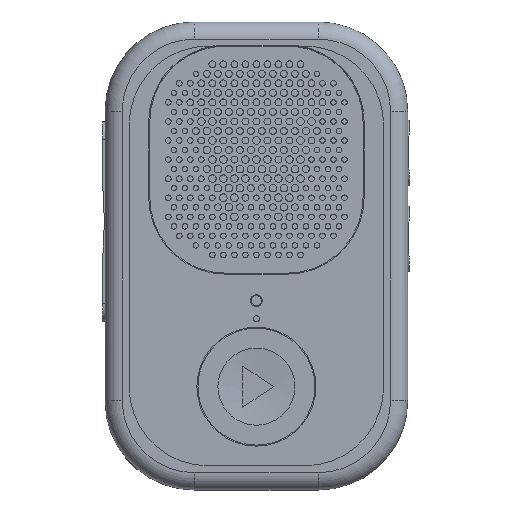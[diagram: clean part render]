
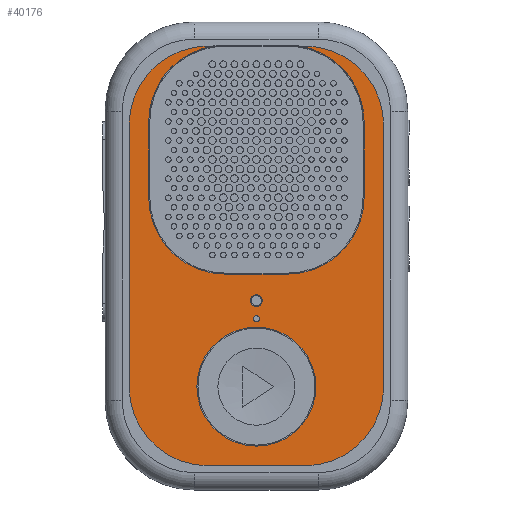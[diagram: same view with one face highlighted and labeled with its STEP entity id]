
A CAD part, top view. The second image highlights one B-rep face of the part: STEP entity #40176.
In plain terms, the highlighted planar face has unit normal (0, 0, 1).
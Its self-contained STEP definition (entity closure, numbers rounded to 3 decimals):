
#661=FACE_BOUND('',#6298,.T.);
#662=FACE_BOUND('',#6299,.T.);
#663=FACE_BOUND('',#6300,.T.);
#2376=CIRCLE('',#42797,2.3);
#2377=CIRCLE('',#42800,2.3);
#2378=CIRCLE('',#42803,2.23);
#2383=CIRCLE('',#42810,2.23);
#2385=CIRCLE('',#42814,2.3);
#2386=CIRCLE('',#42817,2.3);
#2464=CIRCLE('',#42969,2.23);
#2465=CIRCLE('',#42970,2.23);
#2466=CIRCLE('',#42971,1.73);
#2467=CIRCLE('',#42972,0.09);
#2468=CIRCLE('',#42973,0.17);
#4206=FACE_OUTER_BOUND('',#6297,.T.);
#6297=EDGE_LOOP('',(#28185,#28186,#28187,#28188,#28189,#28190,#28191,#28192,
#28193,#28194,#28195,#28196,#28197,#28198,#28199,#28200));
#6298=EDGE_LOOP('',(#28201));
#6299=EDGE_LOOP('',(#28202));
#6300=EDGE_LOOP('',(#28203));
#9231=LINE('',#59442,#13311);
#9235=LINE('',#59451,#13315);
#9244=LINE('',#59483,#13324);
#9246=LINE('',#59490,#13326);
#9249=LINE('',#59497,#13329);
#9545=LINE('',#60231,#13625);
#9546=LINE('',#60235,#13626);
#9547=LINE('',#60238,#13627);
#13311=VECTOR('',#47281,0.1);
#13315=VECTOR('',#47291,0.1);
#13324=VECTOR('',#47322,0.1);
#13326=VECTOR('',#47330,0.1);
#13329=VECTOR('',#47339,0.1);
#13625=VECTOR('',#47935,0.1);
#13626=VECTOR('',#47938,0.1);
#13627=VECTOR('',#47941,0.1);
#17416=VERTEX_POINT('',#59435);
#17417=VERTEX_POINT('',#59437);
#17418=VERTEX_POINT('',#59441);
#17419=VERTEX_POINT('',#59445);
#17420=VERTEX_POINT('',#59449);
#17421=VERTEX_POINT('',#59453);
#17430=VERTEX_POINT('',#59474);
#17431=VERTEX_POINT('',#59476);
#17432=VERTEX_POINT('',#59481);
#17433=VERTEX_POINT('',#59485);
#17434=VERTEX_POINT('',#59489);
#17435=VERTEX_POINT('',#59493);
#17723=VERTEX_POINT('',#60230);
#17724=VERTEX_POINT('',#60232);
#17725=VERTEX_POINT('',#60234);
#17726=VERTEX_POINT('',#60236);
#17727=VERTEX_POINT('',#60239);
#17728=VERTEX_POINT('',#60241);
#17729=VERTEX_POINT('',#60243);
#21418=EDGE_CURVE('',#17416,#17417,#2376,.T.);
#21419=EDGE_CURVE('',#17416,#17418,#9231,.T.);
#21421=EDGE_CURVE('',#17419,#17418,#2377,.T.);
#21424=EDGE_CURVE('',#17420,#17419,#9235,.T.);
#21425=EDGE_CURVE('',#17420,#17421,#2378,.T.);
#21436=EDGE_CURVE('',#17430,#17431,#2383,.T.);
#21440=EDGE_CURVE('',#17432,#17431,#9244,.T.);
#21442=EDGE_CURVE('',#17433,#17432,#2385,.T.);
#21443=EDGE_CURVE('',#17434,#17433,#9246,.T.);
#21445=EDGE_CURVE('',#17435,#17434,#2386,.T.);
#21447=EDGE_CURVE('',#17435,#17417,#9249,.T.);
#21821=EDGE_CURVE('',#17723,#17430,#9545,.T.);
#21822=EDGE_CURVE('',#17724,#17723,#2464,.T.);
#21823=EDGE_CURVE('',#17724,#17725,#9546,.T.);
#21824=EDGE_CURVE('',#17726,#17725,#2465,.T.);
#21825=EDGE_CURVE('',#17726,#17421,#9547,.T.);
#21826=EDGE_CURVE('',#17727,#17727,#2466,.T.);
#21827=EDGE_CURVE('',#17728,#17728,#2467,.T.);
#21828=EDGE_CURVE('',#17729,#17729,#2468,.T.);
#28185=ORIENTED_EDGE('',*,*,#21419,.F.);
#28186=ORIENTED_EDGE('',*,*,#21418,.T.);
#28187=ORIENTED_EDGE('',*,*,#21447,.F.);
#28188=ORIENTED_EDGE('',*,*,#21445,.T.);
#28189=ORIENTED_EDGE('',*,*,#21443,.T.);
#28190=ORIENTED_EDGE('',*,*,#21442,.T.);
#28191=ORIENTED_EDGE('',*,*,#21440,.T.);
#28192=ORIENTED_EDGE('',*,*,#21436,.F.);
#28193=ORIENTED_EDGE('',*,*,#21821,.F.);
#28194=ORIENTED_EDGE('',*,*,#21822,.F.);
#28195=ORIENTED_EDGE('',*,*,#21823,.T.);
#28196=ORIENTED_EDGE('',*,*,#21824,.F.);
#28197=ORIENTED_EDGE('',*,*,#21825,.T.);
#28198=ORIENTED_EDGE('',*,*,#21425,.F.);
#28199=ORIENTED_EDGE('',*,*,#21424,.T.);
#28200=ORIENTED_EDGE('',*,*,#21421,.T.);
#28201=ORIENTED_EDGE('',*,*,#21826,.T.);
#28202=ORIENTED_EDGE('',*,*,#21827,.T.);
#28203=ORIENTED_EDGE('',*,*,#21828,.F.);
#38876=PLANE('',#42968);
#40176=ADVANCED_FACE('',(#4206,#661,#662,#663),#38876,.T.);
#42797=AXIS2_PLACEMENT_3D('',#59439,#47277,#47278);
#42800=AXIS2_PLACEMENT_3D('',#59446,#47285,#47286);
#42803=AXIS2_PLACEMENT_3D('',#59454,#47294,#47295);
#42810=AXIS2_PLACEMENT_3D('',#59477,#47314,#47315);
#42814=AXIS2_PLACEMENT_3D('',#59487,#47326,#47327);
#42817=AXIS2_PLACEMENT_3D('',#59494,#47334,#47335);
#42968=AXIS2_PLACEMENT_3D('',#60229,#47933,#47934);
#42969=AXIS2_PLACEMENT_3D('',#60233,#47936,#47937);
#42970=AXIS2_PLACEMENT_3D('',#60237,#47939,#47940);
#42971=AXIS2_PLACEMENT_3D('',#60240,#47942,#47943);
#42972=AXIS2_PLACEMENT_3D('',#60242,#47944,#47945);
#42973=AXIS2_PLACEMENT_3D('',#60244,#47946,#47947);
#47277=DIRECTION('center_axis',(0.,0.,1.));
#47278=DIRECTION('ref_axis',(-1.,0.,0.));
#47281=DIRECTION('',(0.,1.,0.));
#47285=DIRECTION('center_axis',(0.,0.,1.));
#47286=DIRECTION('ref_axis',(-1.,0.,0.));
#47291=DIRECTION('',(-1.,0.,0.));
#47294=DIRECTION('center_axis',(0.,0.,1.));
#47295=DIRECTION('ref_axis',(-1.,0.,0.));
#47314=DIRECTION('center_axis',(0.,0.,1.));
#47315=DIRECTION('ref_axis',(1.,0.,0.));
#47322=DIRECTION('',(-1.,0.,0.));
#47326=DIRECTION('center_axis',(0.,0.,1.));
#47327=DIRECTION('ref_axis',(1.,0.,0.));
#47330=DIRECTION('',(0.,1.,0.));
#47334=DIRECTION('center_axis',(0.,0.,1.));
#47335=DIRECTION('ref_axis',(1.,0.,0.));
#47339=DIRECTION('',(-1.,0.,0.));
#47933=DIRECTION('center_axis',(0.,0.,1.));
#47934=DIRECTION('ref_axis',(1.,0.,0.));
#47935=DIRECTION('',(0.,1.,0.));
#47936=DIRECTION('center_axis',(0.,0.,1.));
#47937=DIRECTION('ref_axis',(1.,0.,0.));
#47938=DIRECTION('',(-1.,0.,0.));
#47939=DIRECTION('center_axis',(0.,0.,1.));
#47940=DIRECTION('ref_axis',(-1.,0.,0.));
#47941=DIRECTION('',(0.,1.,0.));
#47942=DIRECTION('center_axis',(0.,0.,-1.));
#47943=DIRECTION('ref_axis',(1.,0.,0.));
#47944=DIRECTION('center_axis',(0.,0.,-1.));
#47945=DIRECTION('ref_axis',(1.,0.,0.));
#47946=DIRECTION('center_axis',(0.,0.,1.));
#47947=DIRECTION('ref_axis',(1.,0.,0.));
#59435=CARTESIAN_POINT('',(-3.7,-3.8,1.32));
#59437=CARTESIAN_POINT('',(-1.4,-6.1,1.32));
#59439=CARTESIAN_POINT('Origin',(-1.4,-3.8,1.32));
#59441=CARTESIAN_POINT('',(-3.7,3.8,1.32));
#59442=CARTESIAN_POINT('',(-3.7,-6.39,1.32));
#59445=CARTESIAN_POINT('',(-1.4,6.1,1.32));
#59446=CARTESIAN_POINT('Origin',(-1.4,3.8,1.32));
#59449=CARTESIAN_POINT('',(-1.265,6.1,1.32));
#59451=CARTESIAN_POINT('',(-3.99,6.1,1.32));
#59453=CARTESIAN_POINT('',(-3.13,3.9,1.32));
#59454=CARTESIAN_POINT('Origin',(-0.9,3.9,1.32));
#59474=CARTESIAN_POINT('',(3.13,3.9,1.32));
#59476=CARTESIAN_POINT('',(1.265,6.1,1.32));
#59477=CARTESIAN_POINT('Origin',(0.9,3.9,1.32));
#59481=CARTESIAN_POINT('',(1.4,6.1,1.32));
#59483=CARTESIAN_POINT('',(-3.99,6.1,1.32));
#59485=CARTESIAN_POINT('',(3.7,3.8,1.32));
#59487=CARTESIAN_POINT('Origin',(1.4,3.8,1.32));
#59489=CARTESIAN_POINT('',(3.7,-3.8,1.32));
#59490=CARTESIAN_POINT('',(3.7,-6.39,1.32));
#59493=CARTESIAN_POINT('',(1.4,-6.1,1.32));
#59494=CARTESIAN_POINT('Origin',(1.4,-3.8,1.32));
#59497=CARTESIAN_POINT('',(-3.99,-6.1,1.32));
#60229=CARTESIAN_POINT('Origin',(-4.28,-6.68,1.32));
#60230=CARTESIAN_POINT('',(3.13,1.7,1.32));
#60231=CARTESIAN_POINT('',(3.13,-3.605,1.32));
#60232=CARTESIAN_POINT('',(0.9,-0.53,1.32));
#60233=CARTESIAN_POINT('Origin',(0.9,1.7,1.32));
#60234=CARTESIAN_POINT('',(-0.9,-0.53,1.32));
#60235=CARTESIAN_POINT('',(-3.705,-0.53,1.32));
#60236=CARTESIAN_POINT('',(-3.13,1.7,1.32));
#60237=CARTESIAN_POINT('Origin',(-0.9,1.7,1.32));
#60238=CARTESIAN_POINT('',(-3.13,-3.605,1.32));
#60239=CARTESIAN_POINT('',(-1.73,-3.8,1.32));
#60240=CARTESIAN_POINT('Origin',(0.,-3.8,1.32));
#60241=CARTESIAN_POINT('',(-0.09,-1.825,1.32));
#60242=CARTESIAN_POINT('Origin',(0.,-1.825,1.32));
#60243=CARTESIAN_POINT('',(-0.17,-1.3,1.32));
#60244=CARTESIAN_POINT('Origin',(0.,-1.3,1.32));
